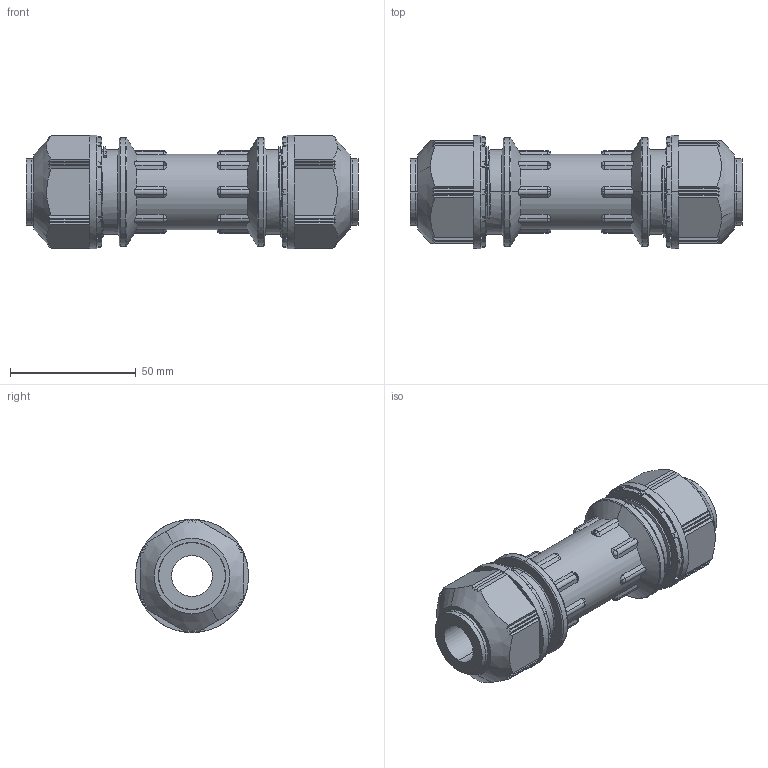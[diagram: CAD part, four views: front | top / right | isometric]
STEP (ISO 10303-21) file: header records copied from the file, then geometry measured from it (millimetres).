
FILE_DESCRIPTION(('Creo Elements/Direct Modeling STEP Export'),'2;1');
FILE_NAME('H07-0029-CL913-01_OA-QW20SN.stp','2012-09-19T15:40:45',(''),(''),'Creo Elements/Direct Modeling STEP processor for AP214 (Solid Model)','Creo Elements/Direct Modeling 18.0B 02-Dec-2011 (C) Parametric Technology GmbH','');
FILE_SCHEMA(('AUTOMOTIVE_DESIGN { 1 0 10303 214 1 1 1 1 }'));
Length unit declared in the file: millimetre
Products named in the file (10): G28-20A_L; G28-20B_L; G28-20_L; L側; G28-20B_R; G28-20A_R; G28-20_R; R側; OA-QW_本体; OA-QW20SN
Assembly tree (9 placements, depth 4):
  OA-QW20SN
    OA-QW_本体
    R側
      G28-20_R
        G28-20A_R
        G28-20B_R
    L側
      G28-20_L
        G28-20B_L
        G28-20A_L
Bounding box: 132 x 45 x 45 mm (x, y, z)
Volume: 83798.8 mm3; surface area: 50003.4 mm2
Topology: 5 solids, 5 shells, 528 faces, 1308 edges, 798 vertices
Faces by surface type: plane 300, cylinder 116, cone 72, sphere 20, torus 16, bspline 4
Entity records: 18300 total; most frequent: CARTESIAN_POINT 6911, ORIENTED_EDGE 2560, DIRECTION 1934, EDGE_CURVE 1280, VERTEX_POINT 798, AXIS2_PLACEMENT_3D 687, EDGE_LOOP 562, VECTOR 560
